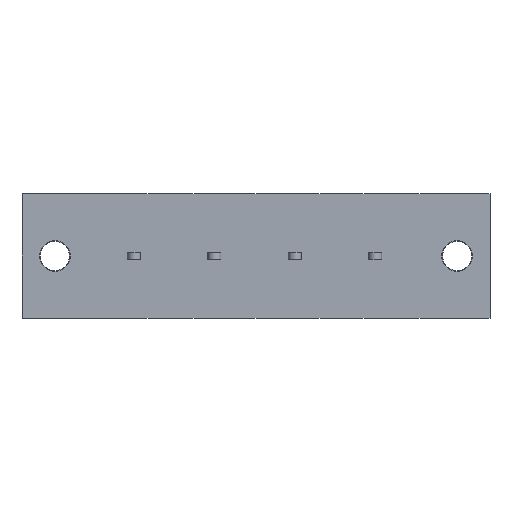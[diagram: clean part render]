
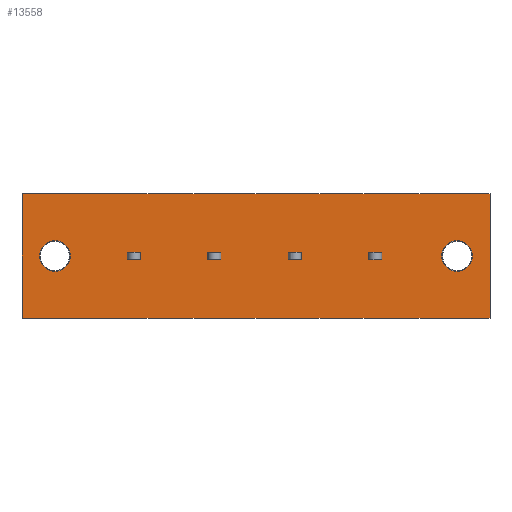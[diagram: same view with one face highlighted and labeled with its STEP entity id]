
A CAD part, front view. The second image highlights one B-rep face of the part: STEP entity #13558.
In plain terms, the highlighted planar face has unit normal (0, -1, 0).
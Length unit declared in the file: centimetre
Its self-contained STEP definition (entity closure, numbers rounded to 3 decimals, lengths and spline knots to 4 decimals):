
#931=VECTOR('',#14691,1.);
#1422=VECTOR('',#15490,1.);
#1591=VECTOR('',#15933,1.);
#1595=VECTOR('',#15938,1.);
#1606=VECTOR('',#15971,1.);
#1608=VECTOR('',#15974,1.);
#1726=VECTOR('',#16288,1.);
#1730=VECTOR('',#16293,1.);
#1741=VECTOR('',#16326,1.);
#1743=VECTOR('',#16329,1.);
#1861=VECTOR('',#16643,1.);
#1865=VECTOR('',#16648,1.);
#1876=VECTOR('',#16681,1.);
#1878=VECTOR('',#16684,1.);
#1945=VECTOR('',#16809,1.);
#1946=VECTOR('',#16810,1.);
#1947=VECTOR('',#16811,1.);
#1948=VECTOR('',#16812,1.);
#1949=VECTOR('',#16813,1.);
#1950=VECTOR('',#16814,1.);
#2408=LINE('',#18460,#931);
#2899=LINE('',#20299,#1422);
#3068=LINE('',#20854,#1591);
#3072=LINE('',#20863,#1595);
#3083=LINE('',#20898,#1606);
#3085=LINE('',#20902,#1608);
#3203=LINE('',#21303,#1726);
#3207=LINE('',#21312,#1730);
#3218=LINE('',#21347,#1741);
#3220=LINE('',#21351,#1743);
#3338=LINE('',#21752,#1861);
#3342=LINE('',#21761,#1865);
#3353=LINE('',#21796,#1876);
#3355=LINE('',#21800,#1878);
#3422=LINE('',#21962,#1945);
#3423=LINE('',#21965,#1946);
#3424=LINE('',#21967,#1947);
#3425=LINE('',#21969,#1948);
#3426=LINE('',#21970,#1949);
#3427=LINE('',#21971,#1950);
#3905=VERTEX_POINT('',#18461);
#3906=VERTEX_POINT('',#18462);
#3917=VERTEX_POINT('',#18486);
#4352=VERTEX_POINT('',#20300);
#4353=VERTEX_POINT('',#20301);
#4364=VERTEX_POINT('',#20325);
#4535=VERTEX_POINT('',#20855);
#4536=VERTEX_POINT('',#20856);
#4539=VERTEX_POINT('',#20864);
#4550=VERTEX_POINT('',#20899);
#4673=VERTEX_POINT('',#21304);
#4674=VERTEX_POINT('',#21305);
#4677=VERTEX_POINT('',#21313);
#4688=VERTEX_POINT('',#21348);
#4811=VERTEX_POINT('',#21753);
#4812=VERTEX_POINT('',#21754);
#4815=VERTEX_POINT('',#21762);
#4826=VERTEX_POINT('',#21797);
#4884=VERTEX_POINT('',#21963);
#4885=VERTEX_POINT('',#21964);
#4886=VERTEX_POINT('',#21966);
#4887=VERTEX_POINT('',#21968);
#4907=CIRCLE('',#22213,0.21);
#4950=CIRCLE('',#22450,0.21);
#5678=EDGE_CURVE('',#3905,#3906,#2408,.T.);
#5690=EDGE_CURVE('',#3917,#3917,#4907,.T.);
#6333=EDGE_CURVE('',#4352,#4353,#2899,.T.);
#6345=EDGE_CURVE('',#4364,#4364,#4950,.T.);
#6594=EDGE_CURVE('',#4535,#4536,#3068,.T.);
#6598=EDGE_CURVE('',#4539,#4535,#3072,.T.);
#6615=EDGE_CURVE('',#4550,#4539,#3083,.T.);
#6617=EDGE_CURVE('',#4536,#4550,#3085,.T.);
#6800=EDGE_CURVE('',#4673,#4674,#3203,.T.);
#6804=EDGE_CURVE('',#4677,#4673,#3207,.T.);
#6821=EDGE_CURVE('',#4688,#4677,#3218,.T.);
#6823=EDGE_CURVE('',#4674,#4688,#3220,.T.);
#7006=EDGE_CURVE('',#4811,#4812,#3338,.T.);
#7010=EDGE_CURVE('',#4815,#4811,#3342,.T.);
#7027=EDGE_CURVE('',#4826,#4815,#3353,.T.);
#7029=EDGE_CURVE('',#4812,#4826,#3355,.T.);
#7112=EDGE_CURVE('',#4884,#4885,#3422,.T.);
#7113=EDGE_CURVE('',#4886,#4884,#3423,.T.);
#7114=EDGE_CURVE('',#4887,#4886,#3424,.T.);
#7115=EDGE_CURVE('',#4885,#4887,#3425,.T.);
#7116=EDGE_CURVE('',#4353,#3905,#3426,.T.);
#7117=EDGE_CURVE('',#3906,#4352,#3427,.T.);
#10977=ORIENTED_EDGE('',*,*,#5690,.T.);
#10978=ORIENTED_EDGE('',*,*,#6345,.T.);
#10979=ORIENTED_EDGE('',*,*,#7112,.F.);
#10980=ORIENTED_EDGE('',*,*,#7113,.F.);
#10981=ORIENTED_EDGE('',*,*,#7114,.F.);
#10982=ORIENTED_EDGE('',*,*,#7115,.F.);
#10983=ORIENTED_EDGE('',*,*,#6598,.T.);
#10984=ORIENTED_EDGE('',*,*,#6594,.T.);
#10985=ORIENTED_EDGE('',*,*,#6617,.T.);
#10986=ORIENTED_EDGE('',*,*,#6615,.T.);
#10987=ORIENTED_EDGE('',*,*,#6804,.T.);
#10988=ORIENTED_EDGE('',*,*,#6800,.T.);
#10989=ORIENTED_EDGE('',*,*,#6823,.T.);
#10990=ORIENTED_EDGE('',*,*,#6821,.T.);
#10991=ORIENTED_EDGE('',*,*,#7010,.T.);
#10992=ORIENTED_EDGE('',*,*,#7006,.T.);
#10993=ORIENTED_EDGE('',*,*,#7029,.T.);
#10994=ORIENTED_EDGE('',*,*,#7027,.T.);
#10995=ORIENTED_EDGE('',*,*,#7116,.T.);
#10996=ORIENTED_EDGE('',*,*,#5678,.T.);
#10997=ORIENTED_EDGE('',*,*,#7117,.T.);
#10998=ORIENTED_EDGE('',*,*,#6333,.T.);
#11975=EDGE_LOOP('',(#10977));
#11976=EDGE_LOOP('',(#10978));
#11977=EDGE_LOOP('',(#10979,#10980,#10981,#10982));
#11978=EDGE_LOOP('',(#10983,#10984,#10985,#10986));
#11979=EDGE_LOOP('',(#10987,#10988,#10989,#10990));
#11980=EDGE_LOOP('',(#10991,#10992,#10993,#10994));
#11981=EDGE_LOOP('',(#10995,#10996,#10997,#10998));
#12807=FACE_BOUND('',#11975,.T.);
#12808=FACE_BOUND('',#11976,.T.);
#12809=FACE_BOUND('',#11977,.T.);
#12810=FACE_BOUND('',#11978,.T.);
#12811=FACE_BOUND('',#11979,.T.);
#12812=FACE_BOUND('',#11980,.T.);
#12813=FACE_BOUND('',#11981,.T.);
#13558=ADVANCED_FACE('',(#12807,#12808,#12809,#12810,#12811,#12812,#12813),
#14074,.T.);
#14074=PLANE('',#22932);
#14691=DIRECTION('',(0.,0.,1.));
#14709=DIRECTION('',(0.,1.,0.));
#14710=DIRECTION('',(0.21,0.,0.));
#15490=DIRECTION('',(0.,0.,-1.));
#15508=DIRECTION('',(0.,1.,0.));
#15509=DIRECTION('',(-0.21,0.,0.));
#15933=DIRECTION('',(0.,0.,1.));
#15938=DIRECTION('',(-1.,0.,0.));
#15971=DIRECTION('',(0.,0.,-1.));
#15974=DIRECTION('',(1.,0.,0.));
#16288=DIRECTION('',(0.,0.,1.));
#16293=DIRECTION('',(-1.,0.,0.));
#16326=DIRECTION('',(0.,0.,-1.));
#16329=DIRECTION('',(1.,0.,0.));
#16643=DIRECTION('',(0.,0.,1.));
#16648=DIRECTION('',(-1.,0.,0.));
#16681=DIRECTION('',(0.,0.,-1.));
#16684=DIRECTION('',(1.,0.,0.));
#16808=DIRECTION('',(0.,-1.,0.));
#16809=DIRECTION('',(1.,0.,0.));
#16810=DIRECTION('',(0.,0.,-1.));
#16811=DIRECTION('',(-1.,0.,0.));
#16812=DIRECTION('',(0.,0.,1.));
#16813=DIRECTION('',(1.,0.,0.));
#16814=DIRECTION('',(-1.,0.,0.));
#18460=CARTESIAN_POINT('',(4.4,0.,0.85));
#18461=CARTESIAN_POINT('',(4.4,0.,-0.85));
#18462=CARTESIAN_POINT('',(4.4,0.,0.85));
#18485=CARTESIAN_POINT('',(3.95,0.,0.));
#18486=CARTESIAN_POINT('',(3.74,0.,0.));
#20299=CARTESIAN_POINT('',(-2.,0.,-0.85));
#20300=CARTESIAN_POINT('',(-2.,0.,0.85));
#20301=CARTESIAN_POINT('',(-2.,0.,-0.85));
#20324=CARTESIAN_POINT('',(-1.55,0.,0.));
#20325=CARTESIAN_POINT('',(-1.34,0.,0.));
#20854=CARTESIAN_POINT('',(2.74,0.,-0.175));
#20855=CARTESIAN_POINT('',(2.74,0.,-0.05));
#20856=CARTESIAN_POINT('',(2.74,0.,0.05));
#20863=CARTESIAN_POINT('',(1.415,0.,-0.05));
#20864=CARTESIAN_POINT('',(2.92,0.,-0.05));
#20898=CARTESIAN_POINT('',(2.92,0.,-0.175));
#20899=CARTESIAN_POINT('',(2.92,0.,0.05));
#20902=CARTESIAN_POINT('',(1.415,0.,0.05));
#21303=CARTESIAN_POINT('',(1.64,0.,-0.175));
#21304=CARTESIAN_POINT('',(1.64,0.,-0.05));
#21305=CARTESIAN_POINT('',(1.64,0.,0.05));
#21312=CARTESIAN_POINT('',(0.865,0.,-0.05));
#21313=CARTESIAN_POINT('',(1.82,0.,-0.05));
#21347=CARTESIAN_POINT('',(1.82,0.,-0.175));
#21348=CARTESIAN_POINT('',(1.82,0.,0.05));
#21351=CARTESIAN_POINT('',(0.865,0.,0.05));
#21752=CARTESIAN_POINT('',(0.54,0.,-0.175));
#21753=CARTESIAN_POINT('',(0.54,0.,-0.05));
#21754=CARTESIAN_POINT('',(0.54,0.,0.05));
#21761=CARTESIAN_POINT('',(0.315,0.,-0.05));
#21762=CARTESIAN_POINT('',(0.72,0.,-0.05));
#21796=CARTESIAN_POINT('',(0.72,0.,-0.175));
#21797=CARTESIAN_POINT('',(0.72,0.,0.05));
#21800=CARTESIAN_POINT('',(0.315,0.,0.05));
#21961=CARTESIAN_POINT('',(0.,0.,0.));
#21962=CARTESIAN_POINT('',(-0.685,0.,-0.05));
#21963=CARTESIAN_POINT('',(-0.56,0.,-0.05));
#21964=CARTESIAN_POINT('',(-0.38,0.,-0.05));
#21965=CARTESIAN_POINT('',(-0.56,0.,-0.175));
#21966=CARTESIAN_POINT('',(-0.56,0.,0.05));
#21967=CARTESIAN_POINT('',(-0.685,0.,0.05));
#21968=CARTESIAN_POINT('',(-0.38,0.,0.05));
#21969=CARTESIAN_POINT('',(-0.38,0.,-0.175));
#21970=CARTESIAN_POINT('',(0.,0.,-0.85));
#21971=CARTESIAN_POINT('',(-1.1,0.,0.85));
#22213=AXIS2_PLACEMENT_3D('',#18485,#14709,#14710);
#22450=AXIS2_PLACEMENT_3D('',#20324,#15508,#15509);
#22932=AXIS2_PLACEMENT_3D('',#21961,#16808,$);
